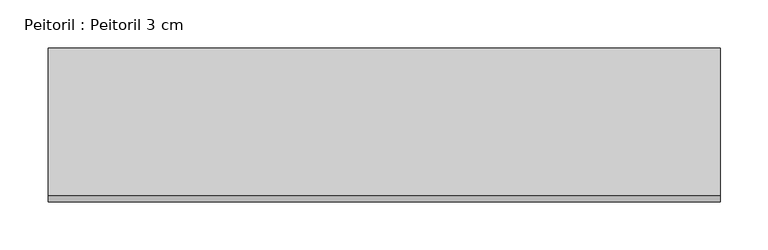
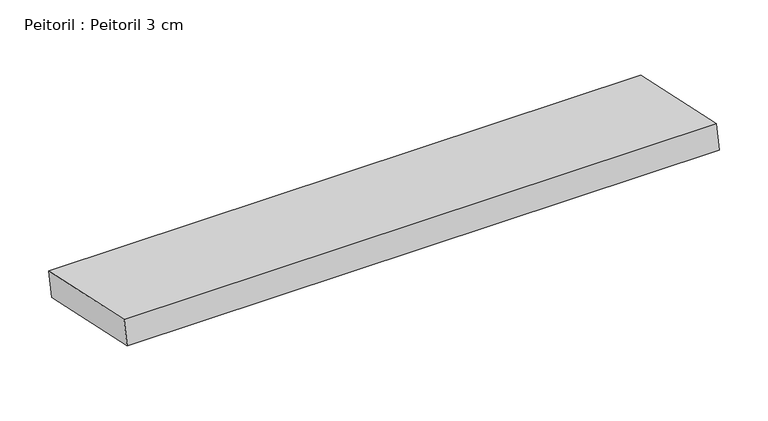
"""IFC4 building model written with IfcOpenShell, lengths in millimetres: proxy geometry, Peitoril : Peitoril 3 cm."""

from ifc_helpers import new_model, si_unit, frame, origin, place, context, project, spatial, polyline, outline, extrude, source, transform, mapped, element, save


def peitoril_peitoril_3_cm_88708ed2(model_context):
    return source(origin(), model_context, "Body", "SweptSolid", [
        extrude(outline(polyline([(0.0, -158.0245115), (0.0, 0.0), (700.0, 0.0), (700.0, -158.0245115), (0.0, -158.0245115)])), frame((511.81445, -32.3195188, 880.655572), z_axis=(0.0, 0.20791169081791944, 0.9781476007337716), x_axis=(-1.0, 0.0, 0.0)), (0.0, 0.0, 1.0), 30.0),
    ])


if __name__ == "__main__":
    model = new_model("IFC4")
    model_context = context("Model", 3, world=origin())
    ifc_project = project(units=[si_unit("LENGTHUNIT", "METRE", prefix="MILLI")], contexts=[model_context])
    site = spatial("IfcSite", under=ifc_project)
    building = spatial("IfcBuilding", under=site)
    placement = place(None, origin())
    peitoril_peitoril_3_cm_shape = peitoril_peitoril_3_cm_88708ed2(model_context)
    element("IfcBuildingElementProxy", 1, Name="Peitoril : Peitoril 3 cm", ObjectType="Peitoril : Peitoril 3 cm", at=placement, inside=building, context=model_context, shape_type="MappedRepresentation", body=[
        mapped(peitoril_peitoril_3_cm_shape, transform((0.0, 0.0, 0.0), x_axis=(1.0, 0.0, 0.0), y_axis=(0.0, 1.0, 0.0), z_axis=(0.0, 0.0, 1.0))),
    ])
    save(model, "model.ifc")
